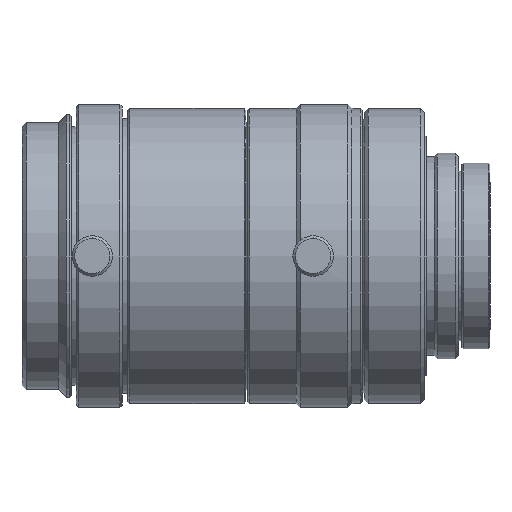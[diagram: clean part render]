
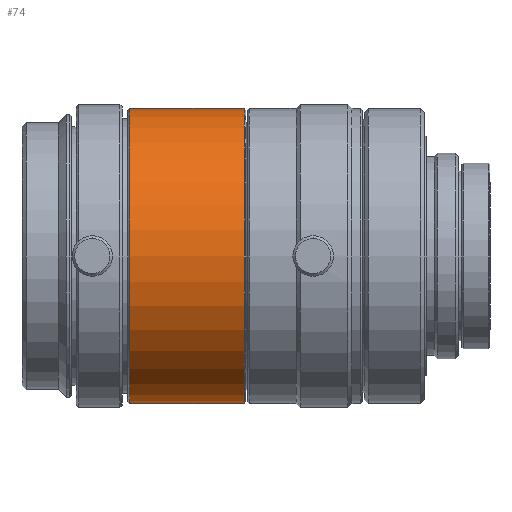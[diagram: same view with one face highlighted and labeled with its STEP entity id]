
A CAD part, front view. The second image highlights one B-rep face of the part: STEP entity #74.
In plain terms, the highlighted cylindrical face has radius 18.25 mm (diameter 36.5 mm), a partial arc.
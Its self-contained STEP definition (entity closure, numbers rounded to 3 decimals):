
#67 = VERTEX_POINT ( 'NONE', #3158 ) ;
#74 = ADVANCED_FACE ( 'NONE', ( #1207 ), #1185, .T. ) ;
#175 = DIRECTION ( 'NONE',  ( 1., 0., 0. ) ) ;
#447 = CARTESIAN_POINT ( 'NONE',  ( 0., 0., 18.25 ) ) ;
#450 = CARTESIAN_POINT ( 'NONE',  ( -54.2, 0., 0. ) ) ;
#517 = CIRCLE ( 'NONE', #1464, 18.25 ) ;
#730 = VERTEX_POINT ( 'NONE', #3118 ) ;
#861 = EDGE_CURVE ( 'NONE', #730, #67, #517, .T. ) ;
#927 = DIRECTION ( 'NONE',  ( 1., 0., 0. ) ) ;
#1154 = EDGE_CURVE ( 'NONE', #730, #1982, #2961, .T. ) ;
#1185 = CYLINDRICAL_SURFACE ( 'NONE', #1483, 18.25 ) ;
#1207 = FACE_OUTER_BOUND ( 'NONE', #1662, .T. ) ;
#1306 = LINE ( 'NONE', #3320, #1572 ) ;
#1309 = DIRECTION ( 'NONE',  ( 0., 0., -1. ) ) ;
#1413 = ORIENTED_EDGE ( 'NONE', *, *, #2974, .T. ) ;
#1464 = AXIS2_PLACEMENT_3D ( 'NONE', #450, #175, #1309 ) ;
#1483 = AXIS2_PLACEMENT_3D ( 'NONE', #3180, #927, #1543 ) ;
#1533 = AXIS2_PLACEMENT_3D ( 'NONE', #2795, #2760, #3592 ) ;
#1543 = DIRECTION ( 'NONE',  ( 0., 0., -1. ) ) ;
#1558 = VERTEX_POINT ( 'NONE', #2021 ) ;
#1572 = VECTOR ( 'NONE', #1924, 1000. ) ;
#1662 = EDGE_LOOP ( 'NONE', ( #3448, #2231, #1413, #2318 ) ) ;
#1818 = CIRCLE ( 'NONE', #1533, 18.25 ) ;
#1858 = EDGE_CURVE ( 'NONE', #1982, #1558, #1818, .T. ) ;
#1924 = DIRECTION ( 'NONE',  ( 1., 0., 0. ) ) ;
#1982 = VERTEX_POINT ( 'NONE', #2870 ) ;
#2021 = CARTESIAN_POINT ( 'NONE',  ( -40., 0., -18.25 ) ) ;
#2231 = ORIENTED_EDGE ( 'NONE', *, *, #861, .T. ) ;
#2318 = ORIENTED_EDGE ( 'NONE', *, *, #1858, .F. ) ;
#2430 = DIRECTION ( 'NONE',  ( 1., 0., 0. ) ) ;
#2433 = VECTOR ( 'NONE', #2430, 1000. ) ;
#2760 = DIRECTION ( 'NONE',  ( 1., 0., 0. ) ) ;
#2795 = CARTESIAN_POINT ( 'NONE',  ( -40., 0., 0. ) ) ;
#2870 = CARTESIAN_POINT ( 'NONE',  ( -40., 0., 18.25 ) ) ;
#2961 = LINE ( 'NONE', #447, #2433 ) ;
#2974 = EDGE_CURVE ( 'NONE', #67, #1558, #1306, .T. ) ;
#3118 = CARTESIAN_POINT ( 'NONE',  ( -54.2, 0., 18.25 ) ) ;
#3158 = CARTESIAN_POINT ( 'NONE',  ( -54.2, 0., -18.25 ) ) ;
#3180 = CARTESIAN_POINT ( 'NONE',  ( 0., 0., 0. ) ) ;
#3320 = CARTESIAN_POINT ( 'NONE',  ( 0., 0., -18.25 ) ) ;
#3448 = ORIENTED_EDGE ( 'NONE', *, *, #1154, .F. ) ;
#3592 = DIRECTION ( 'NONE',  ( 0., 0., -1. ) ) ;
